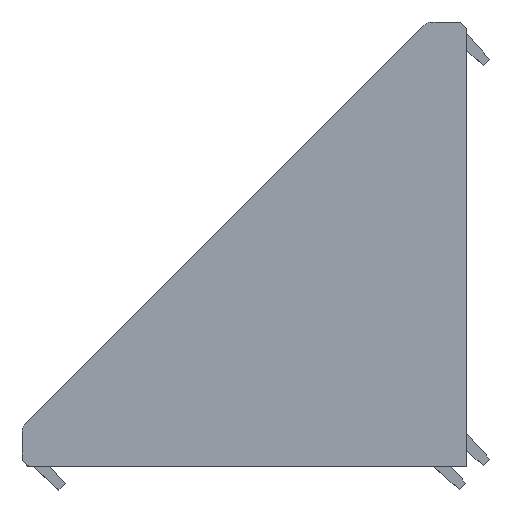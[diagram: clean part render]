
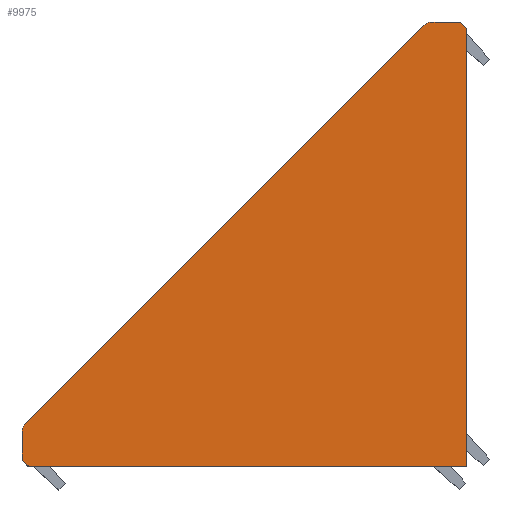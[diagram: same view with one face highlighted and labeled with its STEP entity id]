
A CAD part, top view. The second image highlights one B-rep face of the part: STEP entity #9975.
In plain terms, the highlighted planar face has unit normal (0, 0, 1).
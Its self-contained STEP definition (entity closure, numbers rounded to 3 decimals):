
#988=FACE_OUTER_BOUND($,#1658,.T.);
#1658=EDGE_LOOP($,(#6919,#6920,#6921,#6922,#6923,#6924,#6925,#6926,#6927,
#6928,#6929));
#2365=LINE($,#14920,#3025);
#2428=LINE($,#15456,#3088);
#2454=LINE($,#15660,#3114);
#2455=LINE($,#15662,#3115);
#2456=LINE($,#15667,#3116);
#2457=LINE($,#15669,#3117);
#2458=LINE($,#15673,#3118);
#3025=VECTOR($,#11790,74.746);
#3088=VECTOR($,#11901,74.746);
#3114=VECTOR($,#11953,4.856);
#3115=VECTOR($,#11954,1.273);
#3116=VECTOR($,#11959,1.273);
#3117=VECTOR($,#11960,4.856);
#3118=VECTOR($,#11963,96.304);
#3667=CIRCLE($,#10679,0.5);
#3668=CIRCLE($,#10680,0.5);
#3669=CIRCLE($,#10681,2.);
#3670=CIRCLE($,#10682,2.);
#4211=VERTEX_POINT($,#14917);
#4212=VERTEX_POINT($,#14919);
#4329=VERTEX_POINT($,#15454);
#4373=VERTEX_POINT($,#15658);
#4374=VERTEX_POINT($,#15659);
#4375=VERTEX_POINT($,#15661);
#4376=VERTEX_POINT($,#15664);
#4377=VERTEX_POINT($,#15666);
#4378=VERTEX_POINT($,#15668);
#4379=VERTEX_POINT($,#15670);
#4380=VERTEX_POINT($,#15672);
#5142=EDGE_CURVE($,#4211,#4212,#2365,.T.);
#5267=EDGE_CURVE($,#4329,#4211,#2428,.T.);
#5319=EDGE_CURVE($,#4373,#4374,#2454,.T.);
#5320=EDGE_CURVE($,#4375,#4373,#2455,.T.);
#5321=EDGE_CURVE($,#4212,#4375,#3667,.T.);
#5322=EDGE_CURVE($,#4376,#4329,#3668,.T.);
#5323=EDGE_CURVE($,#4377,#4376,#2456,.T.);
#5324=EDGE_CURVE($,#4378,#4377,#2457,.T.);
#5325=EDGE_CURVE($,#4379,#4378,#3669,.T.);
#5326=EDGE_CURVE($,#4380,#4379,#2458,.T.);
#5327=EDGE_CURVE($,#4374,#4380,#3670,.T.);
#6919=ORIENTED_EDGE($,*,*,#5319,.F.);
#6920=ORIENTED_EDGE($,*,*,#5320,.F.);
#6921=ORIENTED_EDGE($,*,*,#5321,.F.);
#6922=ORIENTED_EDGE($,*,*,#5142,.F.);
#6923=ORIENTED_EDGE($,*,*,#5267,.F.);
#6924=ORIENTED_EDGE($,*,*,#5322,.F.);
#6925=ORIENTED_EDGE($,*,*,#5323,.F.);
#6926=ORIENTED_EDGE($,*,*,#5324,.F.);
#6927=ORIENTED_EDGE($,*,*,#5325,.F.);
#6928=ORIENTED_EDGE($,*,*,#5326,.F.);
#6929=ORIENTED_EDGE($,*,*,#5327,.F.);
#9811=PLANE($,#10678);
#9975=ADVANCED_FACE($,(#988),#9811,.F.);
#10678=AXIS2_PLACEMENT_3D($,#15657,#11951,#11952);
#10679=AXIS2_PLACEMENT_3D($,#15663,#11955,#11956);
#10680=AXIS2_PLACEMENT_3D($,#15665,#11957,#11958);
#10681=AXIS2_PLACEMENT_3D($,#15671,#11961,#11962);
#10682=AXIS2_PLACEMENT_3D($,#15674,#11964,#11965);
#11790=DIRECTION($,(-1.,0.,0.));
#11901=DIRECTION($,(0.,-1.,0.));
#11951=DIRECTION('center_axis',(0.,0.,
-1.));
#11952=DIRECTION('ref_axis',(0.707,0.707,0.));
#11953=DIRECTION($,(0.,1.,0.));
#11954=DIRECTION($,(-0.707,0.707,0.));
#11955=DIRECTION('center_axis',(0.,0.,
-1.));
#11956=DIRECTION('ref_axis',(-1.,0.,0.));
#11957=DIRECTION('center_axis',(0.,0.,
-1.));
#11958=DIRECTION('ref_axis',(-1.,0.,0.));
#11959=DIRECTION($,(0.707,-0.707,0.));
#11960=DIRECTION($,(1.,0.,0.));
#11961=DIRECTION('center_axis',(0.,0.,
-1.));
#11962=DIRECTION('ref_axis',(-1.,0.,0.));
#11963=DIRECTION($,(0.707,0.707,0.));
#11964=DIRECTION('center_axis',(0.,0.,
-1.));
#11965=DIRECTION('ref_axis',(-1.,0.,0.));
#14917=CARTESIAN_POINT('',(0.,0.,
37.));
#14919=CARTESIAN_POINT('',(-74.746,0.,37.));
#14920=CARTESIAN_POINT($,(-117.904,0.,37.));
#15454=CARTESIAN_POINT('',(0.,74.746,37.));
#15456=CARTESIAN_POINT($,(0.,1.621,37.));
#15657=CARTESIAN_POINT('Origin',(-160.854,-78.123,37.));
#15658=CARTESIAN_POINT('',(-76.,1.047,37.));
#15659=CARTESIAN_POINT('',(-76.,5.903,37.));
#15660=CARTESIAN_POINT($,(-76.,-36.11,37.));
#15661=CARTESIAN_POINT('',(-75.1,0.146,37.));
#15662=CARTESIAN_POINT($,(-77.421,2.468,37.));
#15663=CARTESIAN_POINT('Origin',(-74.746,0.5,37.));
#15664=CARTESIAN_POINT('',(-0.146,75.1,37.));
#15665=CARTESIAN_POINT('Origin',(-0.5,74.746,37.));
#15666=CARTESIAN_POINT('',(-1.047,76.,37.));
#15667=CARTESIAN_POINT($,(-2.468,77.421,37.));
#15668=CARTESIAN_POINT('',(-5.903,76.,37.));
#15669=CARTESIAN_POINT($,(-80.95,76.,37.));
#15670=CARTESIAN_POINT('',(-7.317,75.414,37.));
#15671=CARTESIAN_POINT('Origin',(-5.903,74.,37.));
#15672=CARTESIAN_POINT('',(-75.414,7.317,37.));
#15673=CARTESIAN_POINT($,(-84.086,-1.354,37.));
#15674=CARTESIAN_POINT('Origin',(-74.,5.903,37.));
